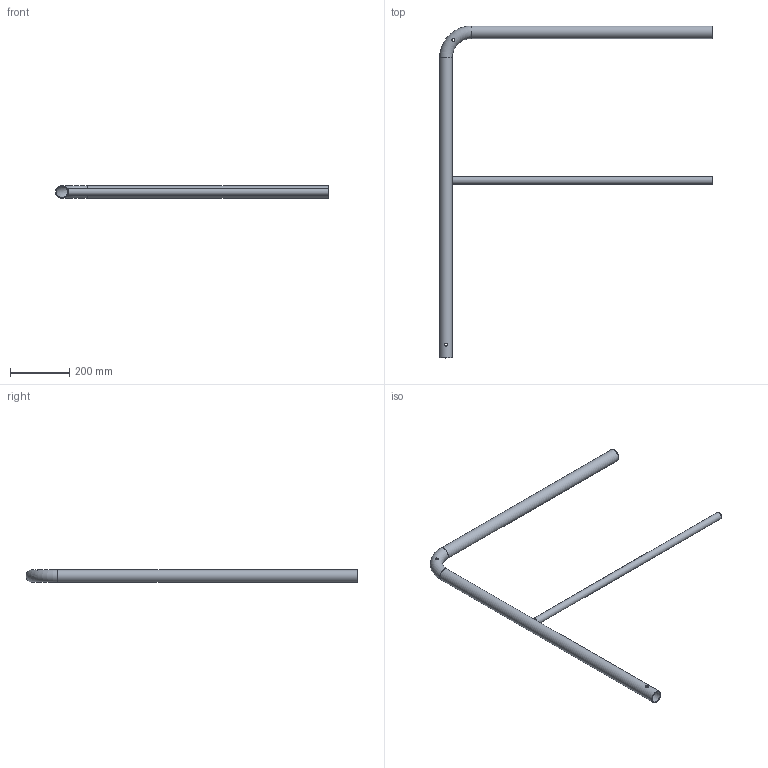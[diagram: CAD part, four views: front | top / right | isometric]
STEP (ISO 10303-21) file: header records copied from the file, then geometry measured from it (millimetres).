
FILE_DESCRIPTION((''),'2;1');
FILE_NAME('S:\Användarkataloger\AndreasA\Mina Inventor filer\Räcken\STEP\ändräcke_smodul_900-1100.stp','2010-09-07T13:41:25',('AndreasA'),(''),'Autodesk Inventor 2011','Autodesk Inventor 2011','');
FILE_SCHEMA(('AUTOMOTIVE_DESIGN { 1 0 10303 214 1 1 1 1 }'));
Length unit declared in the file: millimetre
Products named in the file (3): ändräcke_smodul_900-1100; hledare_ändräcke_smodul_900-1100; mellanliggare_stormodul_879
Assembly tree (2 placements, depth 2):
  ändräcke_smodul_900-1100
    hledare_ändräcke_smodul_900-1100
    mellanliggare_stormodul_879
Bounding box: 921.2 x 1121.2 x 42.4 mm (x, y, z)
Volume: 624621.7 mm3; surface area: 625674.5 mm2
Topology: 2 solids, 2 shells, 16 faces, 32 edges, 20 vertices
Faces by surface type: cylinder 10, plane 4, torus 2
Full cylindrical faces by diameter (mm): 10 x4, 21 x1, 25 x1, 38.4 x2, 42.4 x2
Entity records: 804 total; most frequent: CARTESIAN_POINT 419, DIRECTION 66, ORIENTED_EDGE 40, EDGE_LOOP 40, AXIS2_PLACEMENT_3D 33, FACE_BOUND 24, VERTEX_POINT 20, EDGE_CURVE 20
